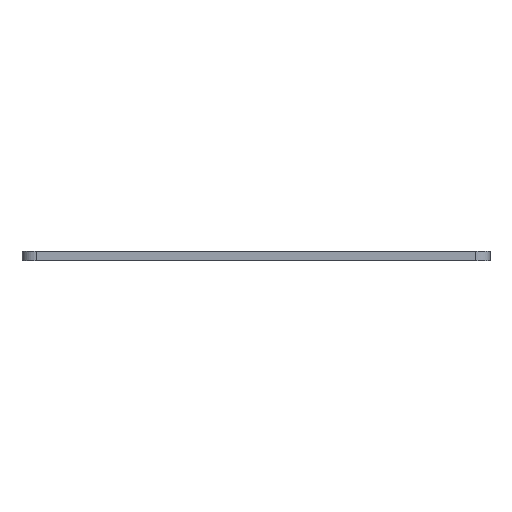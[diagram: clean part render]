
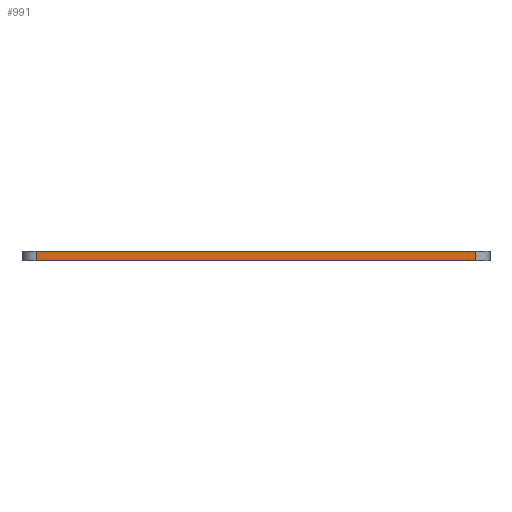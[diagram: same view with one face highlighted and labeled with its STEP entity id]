
A CAD part, front view. The second image highlights one B-rep face of the part: STEP entity #991.
In plain terms, the highlighted planar face has unit normal (0, -1, 0).
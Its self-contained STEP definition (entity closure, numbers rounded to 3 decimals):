
#24 = CARTESIAN_POINT ( 'NONE',  ( 90.031, -80.026, 0. ) ) ;
#62 = LINE ( 'NONE', #950, #560 ) ;
#97 = CARTESIAN_POINT ( 'NONE',  ( -99.969, -80.026, 0. ) ) ;
#136 = VERTEX_POINT ( 'NONE', #170 ) ;
#149 = ORIENTED_EDGE ( 'NONE', *, *, #1185, .T. ) ;
#170 = CARTESIAN_POINT ( 'NONE',  ( 84.031, -80.026, 0. ) ) ;
#245 = DIRECTION ( 'NONE',  ( 0., 1., 0. ) ) ;
#263 = LINE ( 'NONE', #24, #1381 ) ;
#389 = CARTESIAN_POINT ( 'NONE',  ( 90.031, -80.026, 4. ) ) ;
#426 = CARTESIAN_POINT ( 'NONE',  ( 84.031, -80.026, 4. ) ) ;
#448 = EDGE_LOOP ( 'NONE', ( #1244, #549, #708, #149 ) ) ;
#469 = DIRECTION ( 'NONE',  ( 1., 0., 0. ) ) ;
#533 = DIRECTION ( 'NONE',  ( 0., 0., 1. ) ) ;
#549 = ORIENTED_EDGE ( 'NONE', *, *, #745, .T. ) ;
#560 = VECTOR ( 'NONE', #1289, 1000. ) ;
#708 = ORIENTED_EDGE ( 'NONE', *, *, #1264, .T. ) ;
#715 = VERTEX_POINT ( 'NONE', #721 ) ;
#721 = CARTESIAN_POINT ( 'NONE',  ( -99.969, -80.026, 4. ) ) ;
#745 = EDGE_CURVE ( 'NONE', #715, #1368, #62, .T. ) ;
#875 = VERTEX_POINT ( 'NONE', #908 ) ;
#908 = CARTESIAN_POINT ( 'NONE',  ( 84.031, -80.026, 4. ) ) ;
#925 = LINE ( 'NONE', #426, #1261 ) ;
#950 = CARTESIAN_POINT ( 'NONE',  ( -99.969, -80.026, 4. ) ) ;
#991 = ADVANCED_FACE ( 'NONE', ( #1136 ), #1000, .F. ) ;
#993 = DIRECTION ( 'NONE',  ( -1., 0., 0. ) ) ;
#1000 = PLANE ( 'NONE',  #1367 ) ;
#1022 = EDGE_CURVE ( 'NONE', #715, #875, #1364, .T. ) ;
#1117 = CARTESIAN_POINT ( 'NONE',  ( 90.031, -80.026, 4. ) ) ;
#1136 = FACE_OUTER_BOUND ( 'NONE', #448, .T. ) ;
#1185 = EDGE_CURVE ( 'NONE', #136, #875, #925, .T. ) ;
#1244 = ORIENTED_EDGE ( 'NONE', *, *, #1022, .F. ) ;
#1261 = VECTOR ( 'NONE', #533, 1000. ) ;
#1264 = EDGE_CURVE ( 'NONE', #1368, #136, #263, .T. ) ;
#1289 = DIRECTION ( 'NONE',  ( 0., 0., -1. ) ) ;
#1363 = DIRECTION ( 'NONE',  ( 1., 0., 0. ) ) ;
#1364 = LINE ( 'NONE', #1117, #1400 ) ;
#1367 = AXIS2_PLACEMENT_3D ( 'NONE', #389, #245, #993 ) ;
#1368 = VERTEX_POINT ( 'NONE', #97 ) ;
#1381 = VECTOR ( 'NONE', #1363, 1000. ) ;
#1400 = VECTOR ( 'NONE', #469, 1000. ) ;
